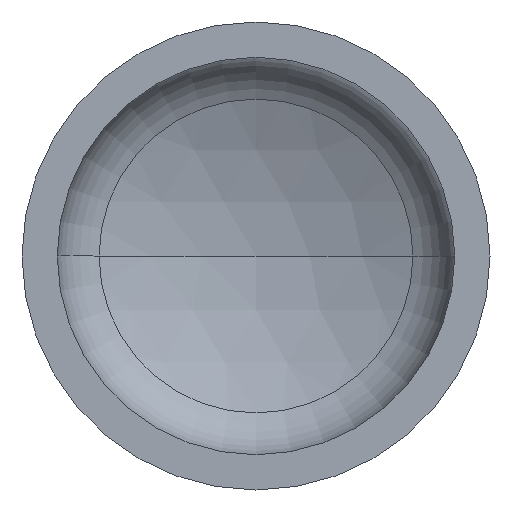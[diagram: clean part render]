
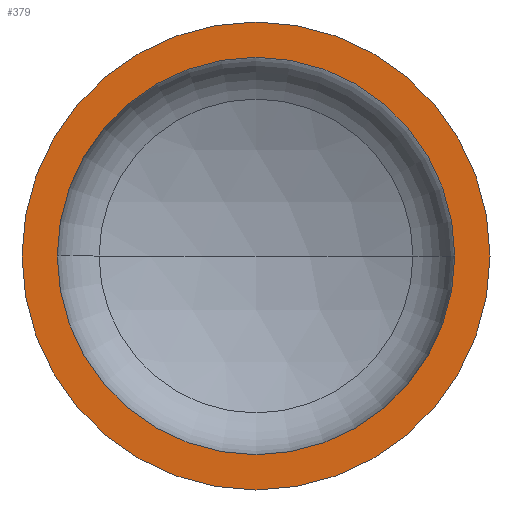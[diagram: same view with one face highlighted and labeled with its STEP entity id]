
A CAD part, front view. The second image highlights one B-rep face of the part: STEP entity #379.
In plain terms, the highlighted planar face has unit normal (0, -1, 0).
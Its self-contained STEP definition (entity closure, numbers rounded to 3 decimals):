
#5 = EDGE_LOOP ( 'NONE', ( #74, #129 ) ) ;
#9 = CARTESIAN_POINT ( 'NONE',  ( 650., 0., 0. ) ) ;
#13 = VERTEX_POINT ( 'NONE', #188 ) ;
#14 = ORIENTED_EDGE ( 'NONE', *, *, #383, .T. ) ;
#15 = AXIS2_PLACEMENT_3D ( 'NONE', #149, #183, #382 ) ;
#17 = AXIS2_PLACEMENT_3D ( 'NONE', #230, #310, #178 ) ;
#29 = VERTEX_POINT ( 'NONE', #9 ) ;
#32 = AXIS2_PLACEMENT_3D ( 'NONE', #403, #267, #43 ) ;
#40 = ORIENTED_EDGE ( 'NONE', *, *, #148, .T. ) ;
#43 = DIRECTION ( 'NONE',  ( 1., 0., 0. ) ) ;
#47 = EDGE_LOOP ( 'NONE', ( #14, #40 ) ) ;
#61 = VERTEX_POINT ( 'NONE', #215 ) ;
#73 = VERTEX_POINT ( 'NONE', #158 ) ;
#74 = ORIENTED_EDGE ( 'NONE', *, *, #150, .F. ) ;
#116 = AXIS2_PLACEMENT_3D ( 'NONE', #237, #164, #321 ) ;
#118 = AXIS2_PLACEMENT_3D ( 'NONE', #391, #255, #410 ) ;
#129 = ORIENTED_EDGE ( 'NONE', *, *, #350, .F. ) ;
#148 = EDGE_CURVE ( 'NONE', #73, #29, #388, .T. ) ;
#149 = CARTESIAN_POINT ( 'NONE',  ( -650., 0., 0. ) ) ;
#150 = EDGE_CURVE ( 'NONE', #61, #13, #211, .T. ) ;
#158 = CARTESIAN_POINT ( 'NONE',  ( -650., 0., 0. ) ) ;
#164 = DIRECTION ( 'NONE',  ( 0., -1., 0. ) ) ;
#178 = DIRECTION ( 'NONE',  ( 1., 0., 0. ) ) ;
#183 = DIRECTION ( 'NONE',  ( 0., 1., 0. ) ) ;
#188 = CARTESIAN_POINT ( 'NONE',  ( -552., 0., 0. ) ) ;
#211 = CIRCLE ( 'NONE', #116, 552. ) ;
#213 = FACE_OUTER_BOUND ( 'NONE', #47, .T. ) ;
#215 = CARTESIAN_POINT ( 'NONE',  ( 552., 0., 0. ) ) ;
#230 = CARTESIAN_POINT ( 'NONE',  ( 0., 0., 0. ) ) ;
#237 = CARTESIAN_POINT ( 'NONE',  ( 0., 0., 0. ) ) ;
#255 = DIRECTION ( 'NONE',  ( 0., -1., 0. ) ) ;
#267 = DIRECTION ( 'NONE',  ( 0., -1., 0. ) ) ;
#277 = FACE_BOUND ( 'NONE', #5, .T. ) ;
#302 = PLANE ( 'NONE',  #15 ) ;
#310 = DIRECTION ( 'NONE',  ( 0., -1., 0. ) ) ;
#318 = CIRCLE ( 'NONE', #17, 650. ) ;
#321 = DIRECTION ( 'NONE',  ( 1., 0., 0. ) ) ;
#349 = CIRCLE ( 'NONE', #32, 552. ) ;
#350 = EDGE_CURVE ( 'NONE', #13, #61, #349, .T. ) ;
#379 = ADVANCED_FACE ( 'NONE', ( #277, #213 ), #302, .F. ) ;
#382 = DIRECTION ( 'NONE',  ( -1., 0., 0. ) ) ;
#383 = EDGE_CURVE ( 'NONE', #29, #73, #318, .T. ) ;
#388 = CIRCLE ( 'NONE', #118, 650. ) ;
#391 = CARTESIAN_POINT ( 'NONE',  ( 0., 0., 0. ) ) ;
#403 = CARTESIAN_POINT ( 'NONE',  ( 0., 0., 0. ) ) ;
#410 = DIRECTION ( 'NONE',  ( 1., 0., 0. ) ) ;
